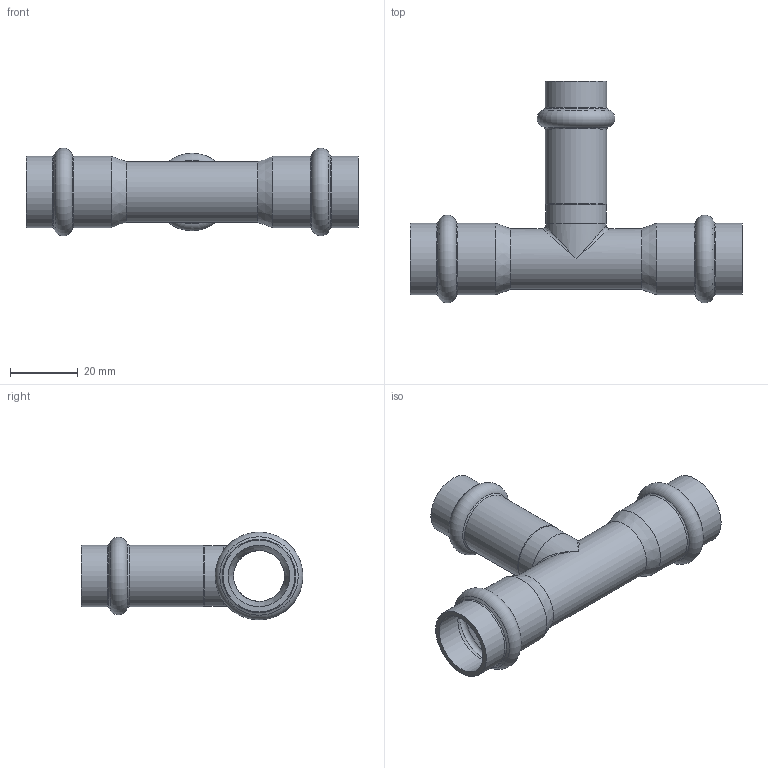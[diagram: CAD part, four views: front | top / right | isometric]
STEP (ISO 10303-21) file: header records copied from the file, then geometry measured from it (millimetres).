
FILE_DESCRIPTION((''),'2;1');
FILE_NAME('G:\Nirosan-Schmiedefeld\Technics\CAD\Bauteile VA\018\69130181518(2).stp','2011-10-26T13:38:44',('herberg'),(''),'Autodesk Inventor 2009','Autodesk Inventor 2009','');
FILE_SCHEMA(('AUTOMOTIVE_DESIGN { 1 0 10303 214 1 1 1 1 }'));
Length unit declared in the file: millimetre
Products named in the file (3): 69130181518(2); LM_6913018(1); HM_69130181518(1)
Assembly tree (2 placements, depth 2):
  69130181518(2)
    LM_6913018(1)
    HM_69130181518(1)
Bounding box: 98 x 65.45 x 25.9 mm (x, y, z)
Volume: 12608.3 mm3; surface area: 17224.6 mm2
Topology: 2 solids, 2 shells, 57 faces, 127 edges, 66 vertices
Faces by surface type: cylinder 18, bspline 16, cone 12, torus 6, plane 5
Full cylindrical faces by diameter (mm): 15 x3, 15.15 x2, 18 x3, 18.15 x6, 21.15 x4
Entity records: 2344 total; most frequent: CARTESIAN_POINT 1330, DIRECTION 212, ORIENTED_EDGE 120, EDGE_LOOP 112, AXIS2_PLACEMENT_3D 106, EDGE_CURVE 60, FACE_OUTER_BOUND 57, ADVANCED_FACE 57
